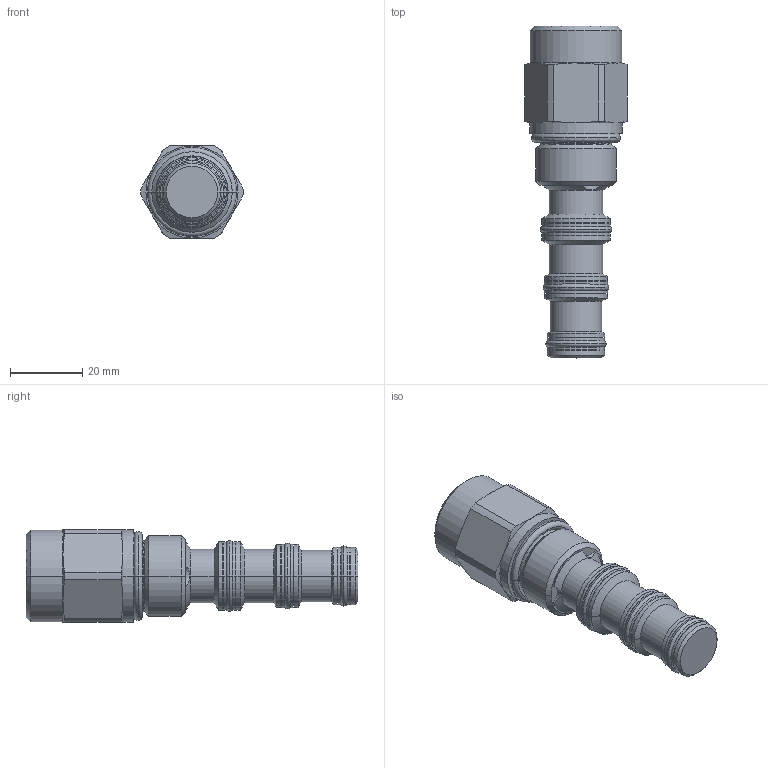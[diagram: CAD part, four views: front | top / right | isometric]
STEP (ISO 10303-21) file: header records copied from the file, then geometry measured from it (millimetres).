
FILE_DESCRIPTION((''),'2;1');
FILE_NAME('5261100_SW0003','2009-02-09T',('jcs'),(''),'PRO/ENGINEER BY PARAMETRIC TECHNOLOGY CORPORATION, 2008010','PRO/ENGINEER BY PARAMETRIC TECHNOLOGY CORPORATION, 2008010','');
FILE_SCHEMA(('CONFIG_CONTROL_DESIGN'));
Length unit declared in the file: inch
Products named in the file (1): 5261100_SW0003
Bounding box: 28.19 x 91.59 x 25.4 mm (x, y, z)
Volume: 30684.2 mm3; surface area: 9970.1 mm2
Topology: 5 solids, 5 shells, 187 faces, 395 edges, 230 vertices
Faces by surface type: cylinder 72, revolution 32, plane 28, cone 28, torus 27
Entity records: 5703 total; most frequent: CARTESIAN_POINT 1583, DIRECTION 912, ORIENTED_EDGE 790, EDGE_CURVE 395, AXIS2_PLACEMENT_3D 390, CIRCLE 235, VERTEX_POINT 230, EDGE_LOOP 207
